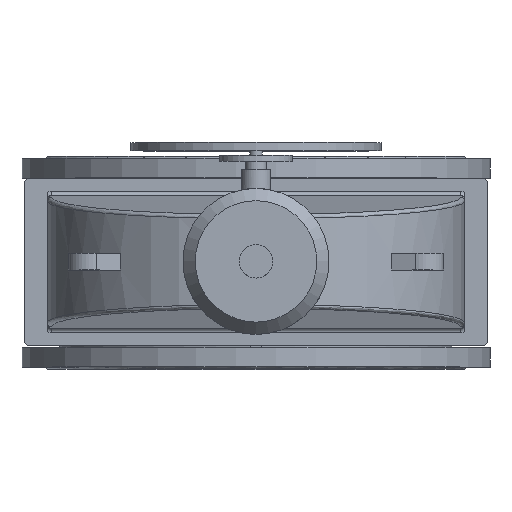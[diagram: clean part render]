
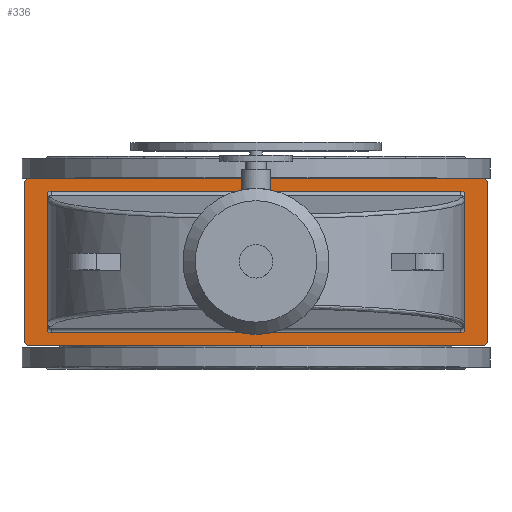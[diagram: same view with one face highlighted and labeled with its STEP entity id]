
A CAD part, top view. The second image highlights one B-rep face of the part: STEP entity #336.
In plain terms, the highlighted planar face has unit normal (0, 0, 1).
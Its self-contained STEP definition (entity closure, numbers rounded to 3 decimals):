
#336=ADVANCED_FACE('',(#3707,#3709),#3711,.T.);
#3707=FACE_BOUND('',#3708,.T.);
#3708=EDGE_LOOP('',(#8106,#8107,#8108,#8109,#8110,#8111,#8112,#8113));
#3709=FACE_BOUND('',#3710,.T.);
#3710=EDGE_LOOP('',(#8114,#8115,#8116,#8117,#8118,#8119,#8120,#8121));
#3711=PLANE('',#3712);
#3712=AXIS2_PLACEMENT_3D('',#3713,#3714,#3715);
#3713=CARTESIAN_POINT('',(0.,0.,1296.));
#3714=DIRECTION('',(0.,-0.,1.));
#3715=DIRECTION('',(0.,1.,0.));
#8106=ORIENTED_EDGE('',*,*,#9758,.F.);
#8107=ORIENTED_EDGE('',*,*,#9759,.T.);
#8108=ORIENTED_EDGE('',*,*,#9760,.F.);
#8109=ORIENTED_EDGE('',*,*,#9761,.T.);
#8110=ORIENTED_EDGE('',*,*,#9762,.F.);
#8111=ORIENTED_EDGE('',*,*,#9763,.T.);
#8112=ORIENTED_EDGE('',*,*,#9764,.F.);
#8113=ORIENTED_EDGE('',*,*,#9765,.T.);
#8114=ORIENTED_EDGE('',*,*,#9766,.F.);
#8115=ORIENTED_EDGE('',*,*,#9728,.F.);
#8116=ORIENTED_EDGE('',*,*,#9767,.F.);
#8117=ORIENTED_EDGE('',*,*,#9768,.F.);
#8118=ORIENTED_EDGE('',*,*,#9769,.F.);
#8119=ORIENTED_EDGE('',*,*,#9717,.F.);
#8120=ORIENTED_EDGE('',*,*,#9756,.F.);
#8121=ORIENTED_EDGE('',*,*,#9770,.F.);
#9717=EDGE_CURVE('',#10594,#10597,#10598,.T.);
#9728=EDGE_CURVE('',#10614,#10609,#10616,.T.);
#9756=EDGE_CURVE('',#10660,#10594,#10661,.F.);
#9758=EDGE_CURVE('',#10663,#10664,#10665,.F.);
#9759=EDGE_CURVE('',#10663,#10666,#10667,.T.);
#9760=EDGE_CURVE('',#10668,#10666,#10669,.F.);
#9761=EDGE_CURVE('',#10668,#10670,#10671,.T.);
#9762=EDGE_CURVE('',#10672,#10670,#10673,.F.);
#9763=EDGE_CURVE('',#10672,#10674,#10675,.T.);
#9764=EDGE_CURVE('',#10676,#10674,#10677,.F.);
#9765=EDGE_CURVE('',#10676,#10664,#10678,.T.);
#9766=EDGE_CURVE('',#10609,#10679,#10680,.T.);
#9767=EDGE_CURVE('',#10681,#10614,#10682,.F.);
#9768=EDGE_CURVE('',#10683,#10681,#10684,.T.);
#9769=EDGE_CURVE('',#10597,#10683,#10685,.T.);
#9770=EDGE_CURVE('',#10679,#10660,#10686,.T.);
#10594=VERTEX_POINT('',#12470);
#10597=VERTEX_POINT('',#12523);
#10598=LINE('',#12524,#12525);
#10609=VERTEX_POINT('',#12600);
#10614=VERTEX_POINT('',#12659);
#10616=LINE('',#12711,#12712);
#10660=VERTEX_POINT('',#12823);
#10661=(BOUNDED_CURVE()B_SPLINE_CURVE(3,
(#12824,#12825,#12826,#12827),
.UNSPECIFIED.,.F.,.F.)B_SPLINE_CURVE_WITH_KNOTS((4,4),
(0.,1.),
.UNSPECIFIED.)CURVE()GEOMETRIC_REPRESENTATION_ITEM()RATIONAL_B_SPLINE_CURVE((1.,
0.977,0.977,1.))REPRESENTATION_ITEM(''));
#10663=VERTEX_POINT('',#12832);
#10664=VERTEX_POINT('',#12833);
#10665=CIRCLE('',#12834,10.);
#10666=VERTEX_POINT('',#12838);
#10667=LINE('',#12839,#12840);
#10668=VERTEX_POINT('',#12842);
#10669=CIRCLE('',#12843,10.);
#10670=VERTEX_POINT('',#12847);
#10671=LINE('',#12848,#12849);
#10672=VERTEX_POINT('',#12851);
#10673=CIRCLE('',#12852,10.);
#10674=VERTEX_POINT('',#12856);
#10675=LINE('',#12857,#12858);
#10676=VERTEX_POINT('',#12860);
#10677=CIRCLE('',#12861,10.);
#10678=LINE('',#12865,#12866);
#10679=VERTEX_POINT('',#12868);
#10680=(BOUNDED_CURVE()B_SPLINE_CURVE(3,
(#12869,#12870,#12871,#12872),
.UNSPECIFIED.,.F.,.F.)B_SPLINE_CURVE_WITH_KNOTS((4,4),
(0.,1.),
.UNSPECIFIED.)CURVE()GEOMETRIC_REPRESENTATION_ITEM()RATIONAL_B_SPLINE_CURVE((1.,
0.977,0.977,1.))REPRESENTATION_ITEM(''));
#10681=VERTEX_POINT('',#12873);
#10682=(BOUNDED_CURVE()B_SPLINE_CURVE(3,
(#12874,#12875,#12876,#12877),
.UNSPECIFIED.,.F.,.F.)B_SPLINE_CURVE_WITH_KNOTS((4,4),
(0.,1.),
.UNSPECIFIED.)CURVE()GEOMETRIC_REPRESENTATION_ITEM()RATIONAL_B_SPLINE_CURVE((1.,
0.977,0.977,1.))REPRESENTATION_ITEM(''));
#10683=VERTEX_POINT('',#12878);
#10684=LINE('',#12879,#12880);
#10685=(BOUNDED_CURVE()B_SPLINE_CURVE(3,
(#12882,#12883,#12884,#12885),
.UNSPECIFIED.,.F.,.F.)B_SPLINE_CURVE_WITH_KNOTS((4,4),
(0.,1.),
.UNSPECIFIED.)CURVE()GEOMETRIC_REPRESENTATION_ITEM()RATIONAL_B_SPLINE_CURVE((1.,
0.977,0.977,1.))REPRESENTATION_ITEM(''));
#10686=LINE('',#12886,#12887);
#12470=CARTESIAN_POINT('',(500.,-166.474,1296.));
#12523=CARTESIAN_POINT('',(500.,166.474,1296.));
#12524=CARTESIAN_POINT('',(500.,-166.474,1296.));
#12525=VECTOR('',#12526,1.);
#12526=DIRECTION('',(0.,1.,0.));
#12600=CARTESIAN_POINT('',(-500.,-166.474,1296.));
#12659=CARTESIAN_POINT('',(-500.,166.474,1296.));
#12711=CARTESIAN_POINT('',(-500.,166.474,1296.));
#12712=VECTOR('',#12713,1.);
#12713=DIRECTION('',(0.,-1.,0.));
#12823=CARTESIAN_POINT('',(490.,-169.163,1296.));
#12824=CARTESIAN_POINT('',(500.,-166.474,1296.));
#12825=CARTESIAN_POINT('',(496.942,-168.246,1296.));
#12826=CARTESIAN_POINT('',(493.531,-169.163,1296.));
#12827=CARTESIAN_POINT('',(490.,-169.163,1296.));
#12832=CARTESIAN_POINT('',(-545.,-200.,1296.));
#12833=CARTESIAN_POINT('',(-555.,-190.,1296.));
#12834=AXIS2_PLACEMENT_3D('',#12835,#12836,#12837);
#12835=CARTESIAN_POINT('',(-545.,-190.,1296.));
#12836=DIRECTION('',(0.,-0.,1.));
#12837=DIRECTION('',(-1.,0.,0.));
#12838=CARTESIAN_POINT('',(545.,-200.,1296.));
#12839=CARTESIAN_POINT('',(-545.,-200.,1296.));
#12840=VECTOR('',#12841,1.);
#12841=DIRECTION('',(1.,0.,0.));
#12842=CARTESIAN_POINT('',(555.,-190.,1296.));
#12843=AXIS2_PLACEMENT_3D('',#12844,#12845,#12846);
#12844=CARTESIAN_POINT('',(545.,-190.,1296.));
#12845=DIRECTION('',(0.,-0.,1.));
#12846=DIRECTION('',(0.,-1.,0.));
#12847=CARTESIAN_POINT('',(555.,190.,1296.));
#12848=CARTESIAN_POINT('',(555.,-190.,1296.));
#12849=VECTOR('',#12850,1.);
#12850=DIRECTION('',(0.,1.,0.));
#12851=CARTESIAN_POINT('',(545.,200.,1296.));
#12852=AXIS2_PLACEMENT_3D('',#12853,#12854,#12855);
#12853=CARTESIAN_POINT('',(545.,190.,1296.));
#12854=DIRECTION('',(0.,-0.,1.));
#12855=DIRECTION('',(1.,0.,0.));
#12856=CARTESIAN_POINT('',(-545.,200.,1296.));
#12857=CARTESIAN_POINT('',(545.,200.,1296.));
#12858=VECTOR('',#12859,1.);
#12859=DIRECTION('',(-1.,0.,0.));
#12860=CARTESIAN_POINT('',(-555.,190.,1296.));
#12861=AXIS2_PLACEMENT_3D('',#12862,#12863,#12864);
#12862=CARTESIAN_POINT('',(-545.,190.,1296.));
#12863=DIRECTION('',(0.,-0.,1.));
#12864=DIRECTION('',(0.,1.,0.));
#12865=CARTESIAN_POINT('',(-555.,190.,1296.));
#12866=VECTOR('',#12867,1.);
#12867=DIRECTION('',(0.,-1.,0.));
#12868=CARTESIAN_POINT('',(-490.,-169.163,1296.));
#12869=CARTESIAN_POINT('',(-500.,-166.474,1296.));
#12870=CARTESIAN_POINT('',(-496.942,-168.246,1296.));
#12871=CARTESIAN_POINT('',(-493.531,-169.163,1296.));
#12872=CARTESIAN_POINT('',(-490.,-169.163,1296.));
#12873=CARTESIAN_POINT('',(-490.,169.163,1296.));
#12874=CARTESIAN_POINT('',(-500.,166.474,1296.));
#12875=CARTESIAN_POINT('',(-496.942,168.246,1296.));
#12876=CARTESIAN_POINT('',(-493.531,169.163,1296.));
#12877=CARTESIAN_POINT('',(-490.,169.163,1296.));
#12878=CARTESIAN_POINT('',(490.,169.163,1296.));
#12879=CARTESIAN_POINT('',(490.,169.163,1296.));
#12880=VECTOR('',#12881,1.);
#12881=DIRECTION('',(-1.,0.,0.));
#12882=CARTESIAN_POINT('',(500.,166.474,1296.));
#12883=CARTESIAN_POINT('',(496.942,168.246,1296.));
#12884=CARTESIAN_POINT('',(493.531,169.163,1296.));
#12885=CARTESIAN_POINT('',(490.,169.163,1296.));
#12886=CARTESIAN_POINT('',(-490.,-169.163,1296.));
#12887=VECTOR('',#12888,1.);
#12888=DIRECTION('',(1.,0.,0.));
